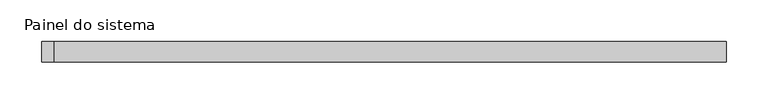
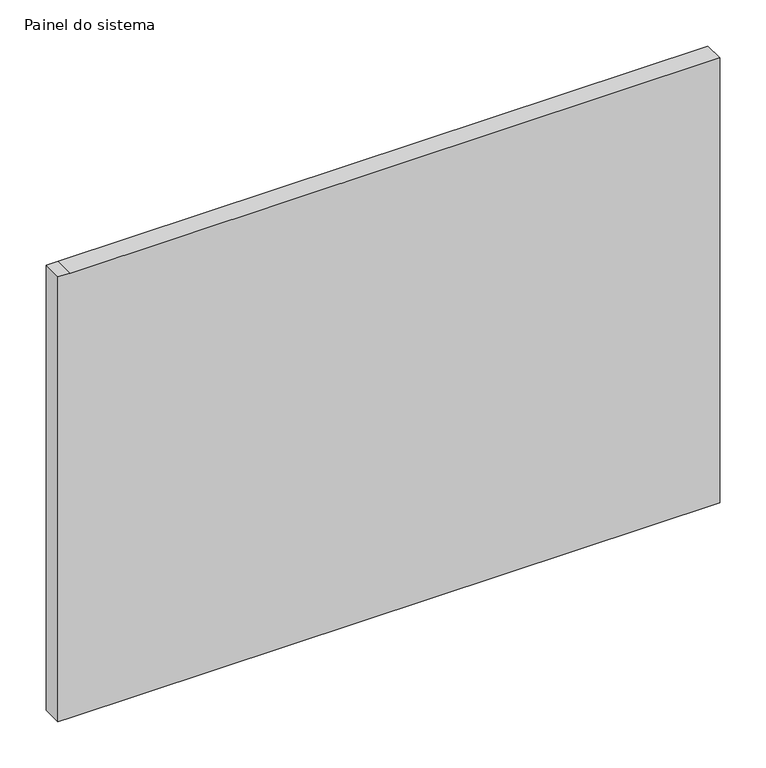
"""IFC4 building model written with IfcOpenShell, lengths in millimetres: plate geometry, Painel do sistema : Envidraçado."""

from ifc_helpers import new_model, si_unit, frame, origin, place, context, project, spatial, polyline, outline, extrude, source, transform, mapped, element, save


def painel_do_sistema_0020434a(model_context):
    return source(origin(), model_context, "Body", "SweptSolid", [
        extrude(outline(polyline([(0.0, -411.6666667), (0.0, -396.6666667), (0.0, 411.6666667), (585.0, 411.6666667), (585.0, -396.6666667), (585.0, -411.6666667), (0.0, -411.6666667)])), frame((0.0, 24.5, 0.0), z_axis=(0.0, 1.0, 0.0), x_axis=(0.0, 0.0, 1.0)), (0.0, 0.0, 1.0), 25.0),
    ])


if __name__ == "__main__":
    model = new_model("IFC4")
    model_context = context("Model", 3, world=origin())
    ifc_project = project(units=[si_unit("LENGTHUNIT", "METRE", prefix="MILLI")], contexts=[model_context])
    site = spatial("IfcSite", under=ifc_project)
    building = spatial("IfcBuilding", under=site)
    placement = place(None, origin())
    painel_do_sistema_shape = painel_do_sistema_0020434a(model_context)
    element("IfcPlate", 1, ObjectType="Painel do sistema : Envidraçado", at=placement, inside=building, context=model_context, shape_type="MappedRepresentation", body=[
        mapped(painel_do_sistema_shape, transform((0.0, 0.0, 0.0), x_axis=(1.0, 0.0, 0.0), y_axis=(0.0, 1.0, 0.0), z_axis=(0.0, 0.0, 1.0))),
    ])
    save(model, "model.ifc")
